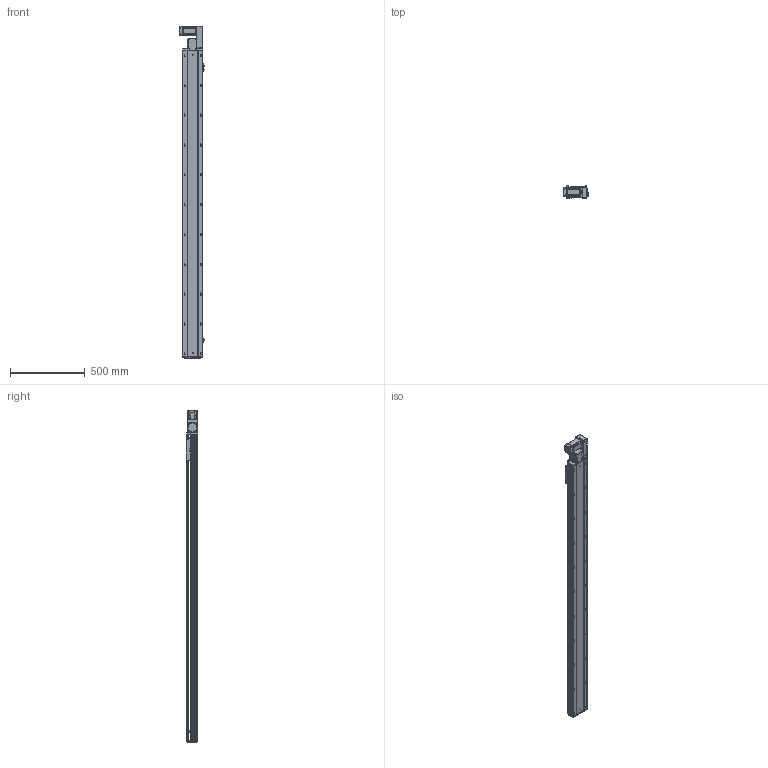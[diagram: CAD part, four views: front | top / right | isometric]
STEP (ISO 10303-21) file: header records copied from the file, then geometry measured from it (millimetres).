
FILE_DESCRIPTION (( 'STEP AP203' ), '1' );
FILE_NAME ('RY140-T-300-RK.SLDASM_1800.step', '2021-03-01T06:46:58', ( '盈信电脑' ), ( '东莞市道滘镇水果街19号' ), 'SwSTEP 2.0', 'SolidWorks 2012', '' );
FILE_SCHEMA (( 'CONFIG_CONTROL_DESIGN' ));
Products named in the file (17): RY140-T-300-RK.SLDASM_1800; RY120-T主同步轮轴承压盖; RY120-T蹟翐M4; 15; RY140-T萇儂欶; RY140-T萇儂假蚾啣; RY120-T肮祭湍揤踡輸1; RY140-T翋肮祭謫盓傅釱; RY140-T翋肮謫裔啣; 滅袉蝶18-10; RY120-T肮祭湍揤踡輸2; 覜茼ん672; RY120外置感应片(140共用）; RY140綴裔啣; RY140-T-300-DR倰第菁釱_1800; RY140肮祭謫臏賑輸; RY140-T-300-DR倰第奻裔啣_1800
Assembly tree (22 placements, depth 2):
  RY140-T-300-RK.SLDASM_1800
    RY140-T-300-DR倰第菁釱_1800
    RY140肮祭謫臏賑輸
    RY140-T-300-DR倰第奻裔啣_1800
    RY140綴裔啣
    覜茼ん672  x3
    RY120外置感应片(140共用）
    RY120-T肮祭湍揤踡輸2
    RY120-T肮祭湍揤踡輸1
    RY140-T翋肮祭謫盓傅釱
    滅袉蝶18-10  x2
    RY140-T翋肮謫裔啣
    RY140-T萇儂欶
    RY140-T萇儂假蚾啣
    RY120-T蹟翐M4  x4
    15
    RY120-T主同步轮轴承压盖
Bounding box: 170.7 x 78 x 2226.5 mm (x, y, z)
Volume: 5909860.3 mm3; surface area: 2305586.2 mm2
Topology: 22 solids, 22 shells, 2851 faces, 7829 edges, 4986 vertices
Faces by surface type: plane 1385, cylinder 1088, cone 278, bspline 100
Entity records: 90074 total; most frequent: CARTESIAN_POINT 21901, ORIENTED_EDGE 14026, DIRECTION 13401, EDGE_CURVE 7013, VERTEX_POINT 4585, AXIS2_PLACEMENT_3D 4502, VECTOR 4397, LINE 4397
